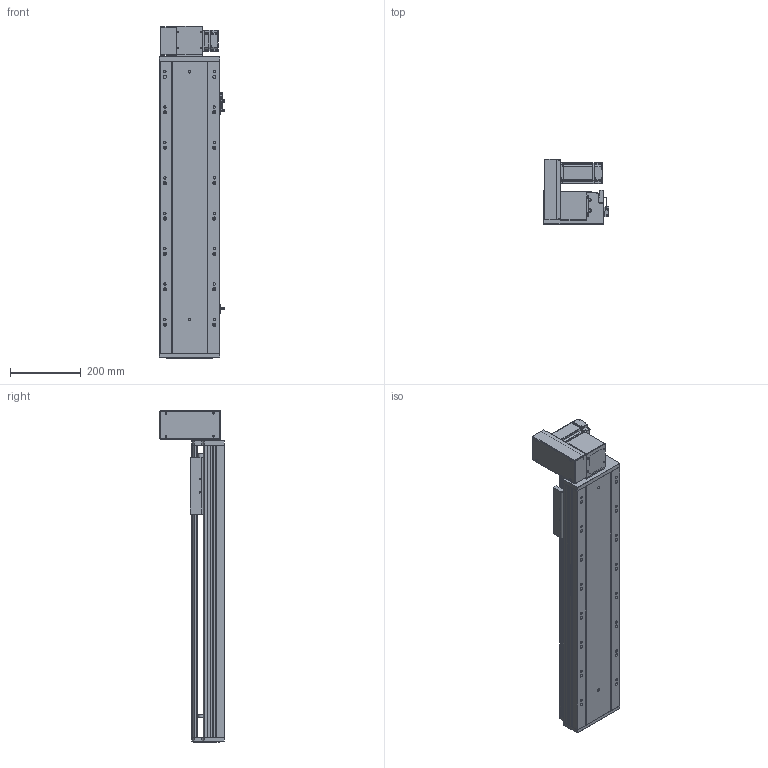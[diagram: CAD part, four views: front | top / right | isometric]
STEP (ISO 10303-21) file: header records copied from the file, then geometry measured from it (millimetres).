
FILE_DESCRIPTION (( 'STEP AP203' ), '1' );
FILE_NAME ('RY170-T-300-UL-P400W.SLDASM_550.step', '2021-03-02T02:12:17', ( '盈信电脑' ), ( '东莞市道滘镇水果街19号' ), 'SwSTEP 2.0', 'SolidWorks 2012', '' );
FILE_SCHEMA (( 'CONFIG_CONTROL_DESIGN' ));
Products named in the file (18): RY170-T-300-UL-P400W.SLDASM_550; 15; RY120-T主同步轮轴承压盖; RY170同步轮电机安装板(400W); RY170肮祭謫萇儂欶; RY170-T蹟翐M4; RY170-T肮祭湍揤踡輸2; 滅袉蝶18-10; RY170-T肮祭謫裔啣; RY170-T肮祭湍揤踡輸1; RY170翋肮祭謫釱; RY170肮祭謫ヶ裔啣; 覜茼ん672; RY170外置感应片(200共用）; RY170肮祭湍臏賑輸; RY170-T-300肮祭謫倰第裔啣-DL_550; RY170綴裔啣; RY170-T-300肮祭謫倰第菁釱-DL_550
Assembly tree (20 placements, depth 2):
  RY170-T-300-UL-P400W.SLDASM_550
    RY170-T-300肮祭謫倰第菁釱-DL_550
    RY170肮祭湍臏賑輸
    RY170-T-300肮祭謫倰第裔啣-DL_550
    RY170綴裔啣
    覜茼ん672  x3
    RY170外置感应片(200共用）
    RY170肮祭謫ヶ裔啣
    RY170翋肮祭謫釱
    RY170-T肮祭湍揤踡輸1
    RY170-T肮祭湍揤踡輸2
    RY170-T肮祭謫裔啣
    滅袉蝶18-10  x2
    RY120-T主同步轮轴承压盖
    RY170肮祭謫萇儂欶
    RY170同步轮电机安装板(400W)
    RY170-T蹟翐M4
    15
Bounding box: 183.7 x 184 x 938 mm (x, y, z)
Volume: 4989915 mm3; surface area: 1660477.5 mm2
Topology: 20 solids, 20 shells, 2529 faces, 7074 edges, 4551 vertices
Faces by surface type: plane 1147, cylinder 1144, cone 208, bspline 30
Entity records: 81016 total; most frequent: CARTESIAN_POINT 18211, ORIENTED_EDGE 12848, DIRECTION 12556, EDGE_CURVE 6424, AXIS2_PLACEMENT_3D 4398, VERTEX_POINT 4219, VECTOR 3760, LINE 3760
